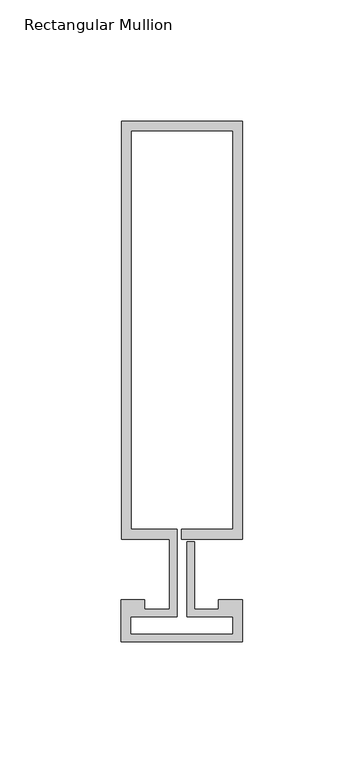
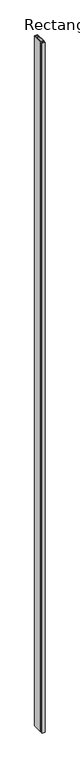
"""IFC4 building model written with IfcOpenShell, lengths in millimetres: member geometry, Rectangular Mullion : Reynaers_CW-50_Mullion-Transom_Horizontal_172.4mm_Facecap-02B."""

from ifc_helpers import new_model, si_unit, frame, origin, place, context, project, spatial, polyline, outline, extrude, source, transform, mapped, element, save


def rectangular_mullion_38bab3f1(model_context):
    return source(origin(), model_context, "Body", "SweptSolid", [
        extrude(outline(polyline([(-24.8004059, 184.9), (25.1995941, 184.9), (25.1995941, 12.5), (0.0, 12.5), (0.0, 16.5), (21.1995941, 16.5), (21.1995941, 180.9), (-20.8004059, 180.9), (-20.8004059, 16.5), (-1.9004059, 16.5), (-1.9004059, -19.5), (-20.994845, -19.5), (-20.994845, -26.7191338), (21.1995941, -26.7191338), (21.1995941, -19.5), (2.2995941, -19.5), (2.2995941, 11.5), (5.2995941, 11.5), (5.2995941, -16.5), (15.2996495, -16.5), (15.2996495, -12.5), (25.1995941, -12.5), (25.1995941, -29.8), (-24.994845, -29.8), (-24.994845, -12.5), (-15.2996495, -12.5), (-15.2996495, -16.5), (-4.9004059, -16.5), (-4.9004059, 12.5), (-24.8004059, 12.5), (-24.8004059, 184.9)])), frame((0.0, 0.0, -12000.0), z_axis=(0.0, 0.0, 1.0), x_axis=(1.0, 0.0, 0.0)), (0.0, 0.0, 1.0), 12000.0),
    ])


if __name__ == "__main__":
    model = new_model("IFC4")
    model_context = context("Model", 3, world=origin())
    ifc_project = project(units=[si_unit("LENGTHUNIT", "METRE", prefix="MILLI")], contexts=[model_context])
    site = spatial("IfcSite", under=ifc_project)
    building = spatial("IfcBuilding", under=site)
    placement = place(None, origin())
    rectangular_mullion_shape = rectangular_mullion_38bab3f1(model_context)
    element("IfcMember", 1, ObjectType="Rectangular Mullion : Reynaers_CW-50_Mullion-Transom_Horizontal_172.4mm_Facecap-02B", at=placement, inside=building, context=model_context, shape_type="MappedRepresentation", body=[
        mapped(rectangular_mullion_shape, transform((0.0, 0.0, 0.0), x_axis=(1.0, 0.0, 0.0), y_axis=(0.0, 1.0, 0.0), z_axis=(0.0, 0.0, 1.0))),
    ])
    save(model, "model.ifc")
